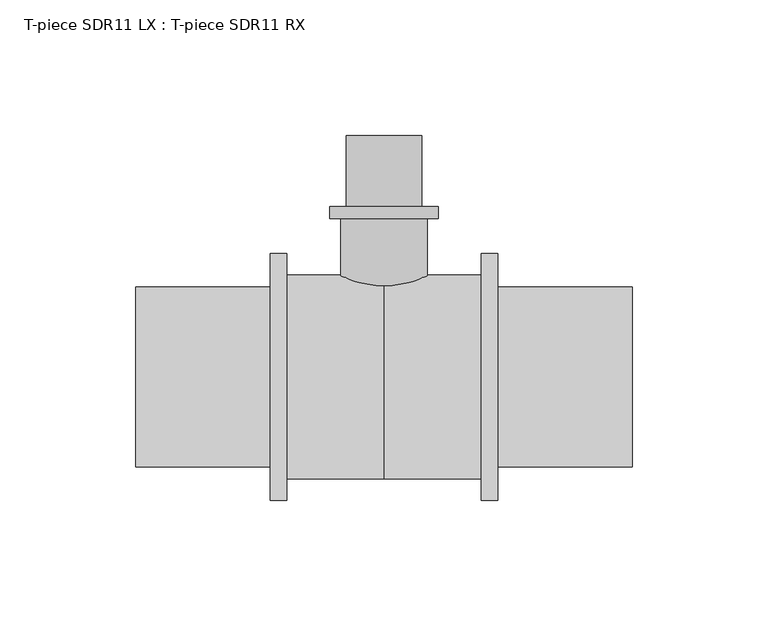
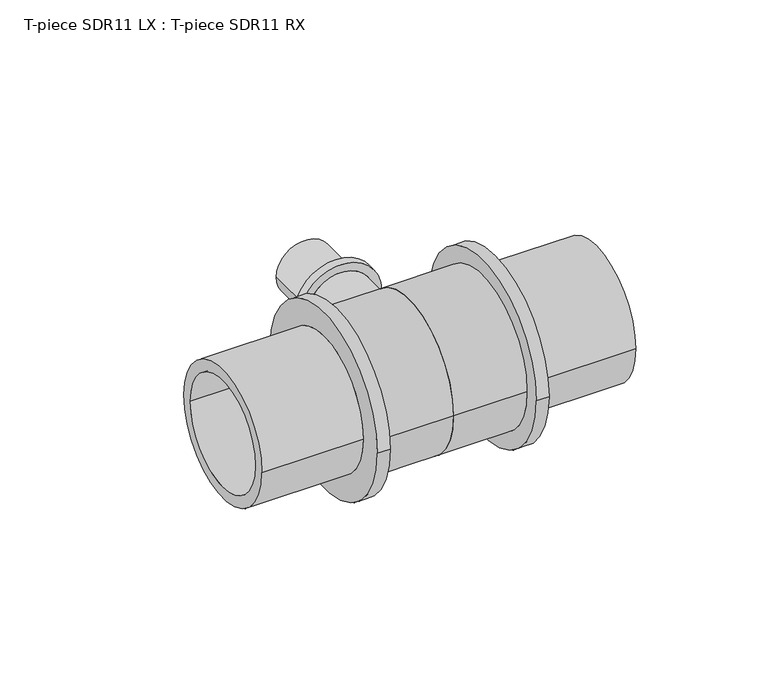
"""IFC4 building model written with IfcOpenShell, lengths in millimetres: pipe fitting geometry, T-piece SDR11 LX : T-piece SDR11 RX."""

from ifc_helpers import new_model, si_unit, point, frame, origin, place, context, project, spatial, polyline, circle_curve, ellipse_curve, trimmed, source, transform, mapped, element, save
from ifc_brep_helpers import plane_surface, cylinder_surface, revolved_surface, advanced_brep


def t_piece_sdr11_lx_t_piece_sdr11_rx_ea6c35c2(model_context):
    return source(origin(), model_context, "Body", "AdvancedBrep", [
        advanced_brep(
        [(16.0, 0.8827683, 0.0), (-16.0, 0.8827683, 0.0), (-16.0, 58.4, 0.0), (16.0, 58.4, 0.0), (11.4, 89.0, 0.0), (-11.4, 89.0, 0.0), (-11.4, 0.0, 0.0), (11.4, 0.0, 0.0), (14.0, 62.8, 0.0), (-14.0, 62.8, 0.0), (-14.0, 89.0, 0.0), (14.0, 89.0, 0.0), (20.0, 58.4, 0.0), (-20.0, 58.4, 0.0), (-20.0, 62.8, 0.0), (20.0, 62.8, 0.0)],
        [
            (0, 1, circle_curve(frame((0.0, 0.8827683, 0.0), z_axis=(0.0, 1.0, 0.0), x_axis=(-1.0, 0.0, 0.0)), 16.0)),
            (1, 2),
            (2, 3, circle_curve(frame((0.0, 58.4, 0.0), z_axis=(0.0, -1.0, 0.0), x_axis=(-1.0, 0.0, 0.0)), 16.0)),
            (3, 0),
            (4, 5, circle_curve(frame((0.0, 89.0, 0.0), z_axis=(0.0, 1.0, 0.0), x_axis=(-1.0, 0.0, 0.0)), 11.4)),
            (5, 6),
            (6, 7, circle_curve(frame((0.0, 0.0, 0.0), z_axis=(0.0, -1.0, 0.0), x_axis=(-1.0, 0.0, 0.0)), 11.4)),
            (7, 4),
            (8, 9, circle_curve(frame((0.0, 62.8, 0.0), z_axis=(0.0, 1.0, 0.0), x_axis=(-1.0, 0.0, 0.0)), 14.0)),
            (9, 10),
            (10, 11, circle_curve(frame((0.0, 89.0, 0.0), z_axis=(0.0, -1.0, 0.0), x_axis=(-1.0, 0.0, 0.0)), 14.0)),
            (11, 8),
            (12, 13, circle_curve(frame((0.0, 58.4, 0.0), z_axis=(0.0, 1.0, 0.0), x_axis=(-1.0, 0.0, 0.0)), 20.0)),
            (13, 14),
            (14, 15, circle_curve(frame((0.0, 62.8, 0.0), z_axis=(0.0, -1.0, 0.0), x_axis=(-1.0, 0.0, 0.0)), 20.0)),
            (15, 12),
            (12, 13, circle_curve(frame((0.0, 58.4, 0.0), z_axis=(0.0, -1.0, 0.0), x_axis=(1.0, 0.0, 0.0)), 20.0)),
            (2, 3, circle_curve(frame((0.0, 58.4, 0.0), z_axis=(0.0, 1.0, 0.0), x_axis=(1.0, 0.0, 0.0)), 16.0)),
            (1, 0, circle_curve(frame((0.0, 0.8827683, 0.0), z_axis=(0.0, 1.0, 0.0), x_axis=(1.0, 0.0, 0.0)), 16.0)),
            (5, 4, circle_curve(frame((0.0, 89.0, 0.0), z_axis=(0.0, 1.0, 0.0), x_axis=(1.0, 0.0, 0.0)), 11.4)),
            (7, 6, circle_curve(frame((0.0, 0.0, 0.0), z_axis=(0.0, -1.0, 0.0), x_axis=(1.0, 0.0, 0.0)), 11.4)),
            (10, 11, circle_curve(frame((0.0, 89.0, 0.0), z_axis=(0.0, 1.0, 0.0), x_axis=(1.0, 0.0, 0.0)), 14.0)),
            (9, 8, circle_curve(frame((0.0, 62.8, 0.0), z_axis=(0.0, 1.0, 0.0), x_axis=(1.0, 0.0, 0.0)), 14.0)),
            (14, 15, circle_curve(frame((0.0, 62.8, 0.0), z_axis=(0.0, 1.0, 0.0), x_axis=(1.0, 0.0, 0.0)), 20.0)),
            (6, 1, circle_curve(frame((-6.6462802, 37.197475, 0.0), z_axis=(0.0, 0.0, -1.0), x_axis=(0.0, -1.0, 0.0)), 37.5)),
            (0, 7, circle_curve(frame((6.6462802, 37.197475, 0.0), z_axis=(0.0, 0.0, -1.0), x_axis=(0.0, -1.0, 0.0)), 37.5)),
        ],
        [
            cylinder_surface(frame((0.0, 0.0, 0.0), z_axis=(0.0, -1.0, 0.0), x_axis=(-1.0, 0.0, 0.0)), 16.0),
            revolved_surface(polyline([(-11.4, 0.0, 0.0), (-11.4, 89.0, 0.0)]), (0.0, 0.0, 0.0), (0.0, -1.0, 0.0)),
            cylinder_surface(frame((0.0, 0.0, 0.0), z_axis=(0.0, -1.0, 0.0), x_axis=(-1.0, 0.0, 0.0)), 14.0),
            cylinder_surface(frame((0.0, 0.0, 0.0), z_axis=(0.0, -1.0, 0.0), x_axis=(-1.0, 0.0, 0.0)), 20.0),
            plane_surface(frame((0.0, 58.4, 0.0), z_axis=(0.0, -1.0, 0.0), x_axis=(1.0, 0.0, 0.0))),
            cylinder_surface(frame((0.0, 0.0, 0.0), z_axis=(0.0, -1.0, 0.0), x_axis=(1.0, 0.0, 0.0)), 16.0),
            revolved_surface(polyline([(11.4, 0.0, 0.0), (11.4, 89.0, 0.0)]), (0.0, 0.0, 0.0), (0.0, -1.0, 0.0)),
            plane_surface(frame((0.0, 89.0, 0.0), z_axis=(0.0, 1.0, 0.0), x_axis=(1.0, 0.0, 0.0))),
            cylinder_surface(frame((0.0, 0.0, 0.0), z_axis=(0.0, -1.0, 0.0), x_axis=(1.0, 0.0, 0.0)), 14.0),
            plane_surface(frame((0.0, 62.8, 0.0), z_axis=(0.0, 1.0, 0.0), x_axis=(1.0, 0.0, 0.0))),
            cylinder_surface(frame((0.0, 0.0, 0.0), z_axis=(0.0, -1.0, 0.0), x_axis=(1.0, 0.0, 0.0)), 20.0),
            revolved_surface(trimmed(ellipse_curve(frame((-6.6462802, 37.197475, 0.0), z_axis=(0.0, 0.0, 1.0), x_axis=(0.0, -1.0, 0.0)), 37.5, 37.5), [point((-16.0, 0.8827683, 0.0))], [point((-11.4, 0.0, 0.0))], True, "CARTESIAN"), (0.0, 0.0, 0.0), (0.0, -1.0, 0.0)),
            revolved_surface(trimmed(ellipse_curve(frame((6.6462802, 37.197475, 0.0), z_axis=(0.0, 0.0, -1.0), x_axis=(0.0, -1.0, 0.0)), 37.5, 37.5), [point((16.0, 0.8827683, 0.0))], [point((11.4, 0.0, 0.0))], True, "CARTESIAN"), (0.0, 0.0, 0.0), (0.0, -1.0, 0.0)),
        ],
        [
            (0, [[1, 2, 3, 4]]),
            (1, [[5, 6, 7, 8]]),
            (2, [[9, 10, 11, 12]]),
            (3, [[13, 14, 15, 16]]),
            (4, [[17, -13], [18, -3]]),
            (5, [[19, -4, -18, -2]]),
            (6, [[20, -8, 21, -6]]),
            (7, [[22, -11], [-20, -5]]),
            (8, [[23, -12, -22, -10]]),
            (9, [[24, -15], [-23, -9]]),
            (10, [[-17, -16, -24, -14]]),
            (11, [[-7, 25, -1, 26]]),
            (12, [[-21, -26, -19, -25]]),
        ],
    ),
        advanced_brep(
        [(35.8, 37.5, 0.0), (35.8, -37.5, 0.0), (0.0, -37.5, 0.0), (0.0, 37.5, 0.0), (0.0, 27.5, 0.0), (0.0, -27.5, 0.0), (91.5, -27.5, 0.0), (91.5, 27.5, 0.0), (91.5, 33.2, 0.0), (91.5, -33.2, 0.0), (42.0, -33.2, 0.0), (42.0, 33.2, 0.0), (42.0, 45.45, 0.0), (42.0, -45.45, 0.0), (35.8, -45.45, 0.0), (35.8, 45.45, 0.0)],
        [
            (0, 1, circle_curve(frame((35.8, 0.0, 0.0), z_axis=(-1.0, 0.0, 0.0), x_axis=(0.0, -1.0, 0.0)), 37.5)),
            (1, 2),
            (2, 3, circle_curve(frame((0.0, 0.0, 0.0), z_axis=(1.0, 0.0, 0.0), x_axis=(0.0, -1.0, 0.0)), 37.5)),
            (3, 0),
            (4, 5, circle_curve(frame((0.0, 0.0, 0.0), z_axis=(-1.0, 0.0, 0.0), x_axis=(0.0, -1.0, 0.0)), 27.5)),
            (5, 6),
            (6, 7, circle_curve(frame((91.5, 0.0, 0.0), z_axis=(1.0, 0.0, 0.0), x_axis=(0.0, -1.0, 0.0)), 27.5)),
            (7, 4),
            (8, 9, circle_curve(frame((91.5, 0.0, 0.0), z_axis=(-1.0, 0.0, 0.0), x_axis=(0.0, -1.0, 0.0)), 33.2)),
            (9, 10),
            (10, 11, circle_curve(frame((42.0, 0.0, 0.0), z_axis=(1.0, 0.0, 0.0), x_axis=(0.0, -1.0, 0.0)), 33.2)),
            (11, 8),
            (12, 13, circle_curve(frame((42.0, 0.0, 0.0), z_axis=(-1.0, 0.0, 0.0), x_axis=(0.0, -1.0, 0.0)), 45.45)),
            (13, 14),
            (14, 15, circle_curve(frame((35.8, 0.0, 0.0), z_axis=(1.0, 0.0, 0.0), x_axis=(0.0, -1.0, 0.0)), 45.45)),
            (15, 12),
            (14, 15, circle_curve(frame((35.8, 0.0, 0.0), z_axis=(-1.0, 0.0, 0.0), x_axis=(0.0, 1.0, 0.0)), 45.45)),
            (0, 1, circle_curve(frame((35.8, 0.0, 0.0), z_axis=(1.0, 0.0, 0.0), x_axis=(0.0, 1.0, 0.0)), 37.5)),
            (3, 2, circle_curve(frame((0.0, 0.0, 0.0), z_axis=(1.0, 0.0, 0.0), x_axis=(0.0, 1.0, 0.0)), 37.5)),
            (4, 5, circle_curve(frame((0.0, 0.0, 0.0), z_axis=(1.0, 0.0, 0.0), x_axis=(0.0, 1.0, 0.0)), 27.5)),
            (7, 6, circle_curve(frame((91.5, 0.0, 0.0), z_axis=(1.0, 0.0, 0.0), x_axis=(0.0, 1.0, 0.0)), 27.5)),
            (8, 9, circle_curve(frame((91.5, 0.0, 0.0), z_axis=(1.0, 0.0, 0.0), x_axis=(0.0, 1.0, 0.0)), 33.2)),
            (11, 10, circle_curve(frame((42.0, 0.0, 0.0), z_axis=(1.0, 0.0, 0.0), x_axis=(0.0, 1.0, 0.0)), 33.2)),
            (12, 13, circle_curve(frame((42.0, 0.0, 0.0), z_axis=(1.0, 0.0, 0.0), x_axis=(0.0, 1.0, 0.0)), 45.45)),
        ],
        [
            cylinder_surface(frame((0.0, 0.0, 0.0), z_axis=(1.0, 0.0, 0.0), x_axis=(0.0, -1.0, 0.0)), 37.5),
            revolved_surface(polyline([(91.5, -27.5, 0.0), (0.0, -27.5, 0.0)]), (0.0, 0.0, 0.0), (1.0, 0.0, 0.0)),
            cylinder_surface(frame((0.0, 0.0, 0.0), z_axis=(1.0, 0.0, 0.0), x_axis=(0.0, -1.0, 0.0)), 33.2),
            cylinder_surface(frame((0.0, 0.0, 0.0), z_axis=(1.0, 0.0, 0.0), x_axis=(0.0, -1.0, 0.0)), 45.45),
            plane_surface(frame((35.8, 0.0, 0.0), z_axis=(-1.0, 0.0, 0.0), x_axis=(0.0, 1.0, 0.0))),
            cylinder_surface(frame((0.0, 0.0, 0.0), z_axis=(1.0, 0.0, 0.0), x_axis=(0.0, 1.0, 0.0)), 37.5),
            plane_surface(frame((0.0, 0.0, 0.0), z_axis=(-1.0, 0.0, 0.0), x_axis=(0.0, 1.0, 0.0))),
            revolved_surface(polyline([(91.5, 27.5, 0.0), (0.0, 27.5, 0.0)]), (0.0, 0.0, 0.0), (1.0, 0.0, 0.0)),
            plane_surface(frame((91.5, 0.0, 0.0), z_axis=(1.0, 0.0, 0.0), x_axis=(0.0, 1.0, 0.0))),
            cylinder_surface(frame((0.0, 0.0, 0.0), z_axis=(1.0, 0.0, 0.0), x_axis=(0.0, 1.0, 0.0)), 33.2),
            plane_surface(frame((42.0, 0.0, 0.0), z_axis=(1.0, 0.0, 0.0), x_axis=(0.0, 1.0, 0.0))),
            cylinder_surface(frame((0.0, 0.0, 0.0), z_axis=(1.0, 0.0, 0.0), x_axis=(0.0, 1.0, 0.0)), 45.45),
        ],
        [
            (0, [[1, 2, 3, 4]]),
            (1, [[5, 6, 7, 8]]),
            (2, [[9, 10, 11, 12]]),
            (3, [[13, 14, 15, 16]]),
            (4, [[17, -15], [18, -1]]),
            (5, [[-18, -4, 19, -2]]),
            (6, [[-19, -3], [20, -5]]),
            (7, [[-20, -8, 21, -6]]),
            (8, [[22, -9], [-21, -7]]),
            (9, [[-22, -12, 23, -10]]),
            (10, [[24, -13], [-23, -11]]),
            (11, [[-24, -16, -17, -14]]),
        ],
    ),
        advanced_brep(
        [(0.0, 37.5, 0.0), (0.0, -37.5, 0.0), (-35.8, -37.5, 0.0), (-35.8, 37.5, 0.0), (-91.5, 27.5, 0.0), (-91.5, -27.5, 0.0), (0.0, -27.5, 0.0), (0.0, 27.5, 0.0), (-42.0, 33.2, 0.0), (-42.0, -33.2, 0.0), (-91.5, -33.2, 0.0), (-91.5, 33.2, 0.0), (-35.8, 45.45, 0.0), (-35.8, -45.45, 0.0), (-42.0, -45.45, 0.0), (-42.0, 45.45, 0.0)],
        [
            (0, 1, circle_curve(frame((0.0, 0.0, 0.0), z_axis=(-1.0, 0.0, 0.0), x_axis=(0.0, -1.0, 0.0)), 37.5)),
            (1, 2),
            (2, 3, circle_curve(frame((-35.8, 0.0, 0.0), z_axis=(1.0, 0.0, 0.0), x_axis=(0.0, -1.0, 0.0)), 37.5)),
            (3, 0),
            (4, 5, circle_curve(frame((-91.5, 0.0, 0.0), z_axis=(-1.0, 0.0, 0.0), x_axis=(0.0, -1.0, 0.0)), 27.5)),
            (5, 6),
            (6, 7, circle_curve(frame((0.0, 0.0, 0.0), z_axis=(1.0, 0.0, 0.0), x_axis=(0.0, -1.0, 0.0)), 27.5)),
            (7, 4),
            (8, 9, circle_curve(frame((-42.0, 0.0, 0.0), z_axis=(-1.0, 0.0, 0.0), x_axis=(0.0, -1.0, 0.0)), 33.2)),
            (9, 10),
            (10, 11, circle_curve(frame((-91.5, 0.0, 0.0), z_axis=(1.0, 0.0, 0.0), x_axis=(0.0, -1.0, 0.0)), 33.2)),
            (11, 8),
            (12, 13, circle_curve(frame((-35.8, 0.0, 0.0), z_axis=(-1.0, 0.0, 0.0), x_axis=(0.0, -1.0, 0.0)), 45.45)),
            (13, 14),
            (14, 15, circle_curve(frame((-42.0, 0.0, 0.0), z_axis=(1.0, 0.0, 0.0), x_axis=(0.0, -1.0, 0.0)), 45.45)),
            (15, 12),
            (12, 13, circle_curve(frame((-35.8, 0.0, 0.0), z_axis=(1.0, 0.0, 0.0), x_axis=(0.0, 1.0, 0.0)), 45.45)),
            (2, 3, circle_curve(frame((-35.8, 0.0, 0.0), z_axis=(-1.0, 0.0, 0.0), x_axis=(0.0, 1.0, 0.0)), 37.5)),
            (1, 0, circle_curve(frame((0.0, 0.0, 0.0), z_axis=(-1.0, 0.0, 0.0), x_axis=(0.0, 1.0, 0.0)), 37.5)),
            (6, 7, circle_curve(frame((0.0, 0.0, 0.0), z_axis=(-1.0, 0.0, 0.0), x_axis=(0.0, 1.0, 0.0)), 27.5)),
            (5, 4, circle_curve(frame((-91.5, 0.0, 0.0), z_axis=(-1.0, 0.0, 0.0), x_axis=(0.0, 1.0, 0.0)), 27.5)),
            (10, 11, circle_curve(frame((-91.5, 0.0, 0.0), z_axis=(-1.0, 0.0, 0.0), x_axis=(0.0, 1.0, 0.0)), 33.2)),
            (9, 8, circle_curve(frame((-42.0, 0.0, 0.0), z_axis=(-1.0, 0.0, 0.0), x_axis=(0.0, 1.0, 0.0)), 33.2)),
            (14, 15, circle_curve(frame((-42.0, 0.0, 0.0), z_axis=(-1.0, 0.0, 0.0), x_axis=(0.0, 1.0, 0.0)), 45.45)),
        ],
        [
            cylinder_surface(frame((0.0, 0.0, 0.0), z_axis=(1.0, 0.0, 0.0), x_axis=(0.0, -1.0, 0.0)), 37.5),
            revolved_surface(polyline([(0.0, -27.5, 0.0), (-91.5, -27.5, 0.0)]), (0.0, 0.0, 0.0), (1.0, 0.0, 0.0)),
            cylinder_surface(frame((0.0, 0.0, 0.0), z_axis=(1.0, 0.0, 0.0), x_axis=(0.0, -1.0, 0.0)), 33.2),
            cylinder_surface(frame((0.0, 0.0, 0.0), z_axis=(1.0, 0.0, 0.0), x_axis=(0.0, -1.0, 0.0)), 45.45),
            plane_surface(frame((-35.8, 0.0, 0.0), z_axis=(1.0, 0.0, 0.0), x_axis=(0.0, 1.0, 0.0))),
            cylinder_surface(frame((0.0, 0.0, 0.0), z_axis=(1.0, 0.0, 0.0), x_axis=(0.0, 1.0, 0.0)), 37.5),
            plane_surface(frame((0.0, 0.0, 0.0), z_axis=(1.0, 0.0, 0.0), x_axis=(0.0, 1.0, 0.0))),
            revolved_surface(polyline([(0.0, 27.5, 0.0), (-91.5, 27.5, 0.0)]), (0.0, 0.0, 0.0), (1.0, 0.0, 0.0)),
            plane_surface(frame((-91.5, 0.0, 0.0), z_axis=(-1.0, 0.0, 0.0), x_axis=(0.0, 1.0, 0.0))),
            cylinder_surface(frame((0.0, 0.0, 0.0), z_axis=(1.0, 0.0, 0.0), x_axis=(0.0, 1.0, 0.0)), 33.2),
            plane_surface(frame((-42.0, 0.0, 0.0), z_axis=(-1.0, 0.0, 0.0), x_axis=(0.0, 1.0, 0.0))),
            cylinder_surface(frame((0.0, 0.0, 0.0), z_axis=(1.0, 0.0, 0.0), x_axis=(0.0, 1.0, 0.0)), 45.45),
        ],
        [
            (0, [[1, 2, 3, 4]]),
            (1, [[5, 6, 7, 8]]),
            (2, [[9, 10, 11, 12]]),
            (3, [[13, 14, 15, 16]]),
            (4, [[17, -13], [18, -3]]),
            (5, [[19, -4, -18, -2]]),
            (6, [[-19, -1], [20, -7]]),
            (7, [[21, -8, -20, -6]]),
            (8, [[22, -11], [-21, -5]]),
            (9, [[23, -12, -22, -10]]),
            (10, [[24, -15], [-23, -9]]),
            (11, [[-17, -16, -24, -14]]),
        ],
    ),
    ])


if __name__ == "__main__":
    model = new_model("IFC4")
    model_context = context("Model", 3, world=origin())
    ifc_project = project(units=[si_unit("LENGTHUNIT", "METRE", prefix="MILLI")], contexts=[model_context])
    site = spatial("IfcSite", under=ifc_project)
    building = spatial("IfcBuilding", under=site)
    placement = place(None, origin())
    t_piece_sdr11_lx_t_piece_sdr11_rx_shape = t_piece_sdr11_lx_t_piece_sdr11_rx_ea6c35c2(model_context)
    element("IfcPipeFitting", 1, ObjectType="T-piece SDR11 LX : T-piece SDR11 RX", at=placement, inside=building, context=model_context, shape_type="MappedRepresentation", body=[
        mapped(t_piece_sdr11_lx_t_piece_sdr11_rx_shape, transform((0.0, 0.0, 0.0), x_axis=(1.0, 0.0, 0.0), y_axis=(0.0, 1.0, 0.0), z_axis=(0.0, 0.0, 1.0))),
    ])
    save(model, "model.ifc")
